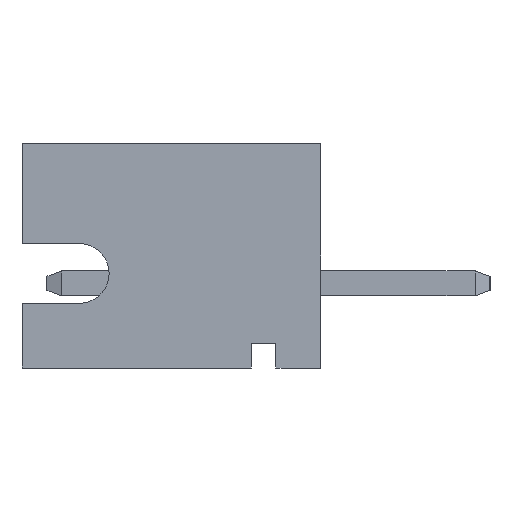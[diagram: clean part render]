
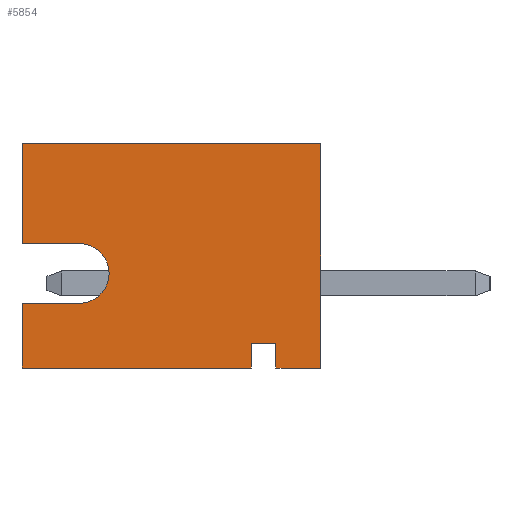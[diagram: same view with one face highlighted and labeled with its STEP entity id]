
A CAD part, left-side view. The second image highlights one B-rep face of the part: STEP entity #5854.
In plain terms, the highlighted planar face has unit normal (-1, 0, 0).
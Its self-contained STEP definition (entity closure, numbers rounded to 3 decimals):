
#412 = CARTESIAN_POINT ( 'NONE',  ( -1.95, 0., 2.8 ) ) ;
#5540 = DIRECTION ( 'NONE',  ( 0., 0., 1. ) ) ;
#5541 = VECTOR ( 'NONE', #5540, 1000. ) ;
#5542 = CARTESIAN_POINT ( 'NONE',  ( -1.95, 6., 0.8 ) ) ;
#5543 = LINE ( 'NONE', #5542, #5541 ) ;
#5544 = CARTESIAN_POINT ( 'NONE',  ( -1.95, 6., 0.8 ) ) ;
#5666 = EDGE_CURVE ( 'NONE', #5668, #5785, #7771, .T. ) ;
#5668 = VERTEX_POINT ( 'NONE', #7833 ) ;
#5682 = VERTEX_POINT ( 'NONE', #7855 ) ;
#5693 = VERTEX_POINT ( 'NONE', #7865 ) ;
#5695 = EDGE_CURVE ( 'NONE', #5693, #5765, #7864, .T. ) ;
#5707 = EDGE_CURVE ( 'NONE', #5717, #5735, #7793, .T. ) ;
#5717 = VERTEX_POINT ( 'NONE', #7998 ) ;
#5735 = VERTEX_POINT ( 'NONE', #7915 ) ;
#5738 = EDGE_CURVE ( 'NONE', #5735, #5693, #8020, .T. ) ;
#5741 = EDGE_CURVE ( 'NONE', #5682, #5743, #7942, .T. ) ;
#5743 = VERTEX_POINT ( 'NONE', #7946 ) ;
#5744 = EDGE_CURVE ( 'NONE', #5743, #6087, #7945, .T. ) ;
#5755 = VERTEX_POINT ( 'NONE', #7917 ) ;
#5757 = EDGE_CURVE ( 'NONE', #5755, #5682, #7992, .T. ) ;
#5765 = VERTEX_POINT ( 'NONE', #7978 ) ;
#5767 = EDGE_CURVE ( 'NONE', #5765, #5755, #7977, .T. ) ;
#5771 = ORIENTED_EDGE ( 'NONE', *, *, #6089, .F. ) ;
#5772 = ORIENTED_EDGE ( 'NONE', *, *, #5744, .F. ) ;
#5773 = ORIENTED_EDGE ( 'NONE', *, *, #5741, .F. ) ;
#5774 = ORIENTED_EDGE ( 'NONE', *, *, #5757, .F. ) ;
#5775 = ORIENTED_EDGE ( 'NONE', *, *, #5767, .F. ) ;
#5776 = ORIENTED_EDGE ( 'NONE', *, *, #5695, .F. ) ;
#5778 = EDGE_CURVE ( 'NONE', #6223, #5668, #7961, .T. ) ;
#5782 = EDGE_CURVE ( 'NONE', #5785, #5717, #7957, .T. ) ;
#5785 = VERTEX_POINT ( 'NONE', #7930 ) ;
#5854 = ADVANCED_FACE ( 'NONE', ( #8093 ), #8119, .T. ) ;
#5855 = EDGE_LOOP ( 'NONE', ( #5856, #5771, #5772, #5773, #5774, #5775, #5776, #5922, #5923, #5924, #5925, #5926 ) ) ;
#5856 = ORIENTED_EDGE ( 'NONE', *, *, #5960, .F. ) ;
#5922 = ORIENTED_EDGE ( 'NONE', *, *, #5738, .F. ) ;
#5923 = ORIENTED_EDGE ( 'NONE', *, *, #5707, .F. ) ;
#5924 = ORIENTED_EDGE ( 'NONE', *, *, #5782, .F. ) ;
#5925 = ORIENTED_EDGE ( 'NONE', *, *, #5666, .F. ) ;
#5926 = ORIENTED_EDGE ( 'NONE', *, *, #5778, .F. ) ;
#5958 = VERTEX_POINT ( 'NONE', #8224 ) ;
#5960 = EDGE_CURVE ( 'NONE', #5958, #6223, #8223, .T. ) ;
#6087 = VERTEX_POINT ( 'NONE', #5544 ) ;
#6089 = EDGE_CURVE ( 'NONE', #6087, #5958, #5543, .T. ) ;
#6223 = VERTEX_POINT ( 'NONE', #412 ) ;
#7768 = DIRECTION ( 'NONE',  ( 0., 1., 0. ) ) ;
#7769 = VECTOR ( 'NONE', #7768, 1000. ) ;
#7770 = CARTESIAN_POINT ( 'NONE',  ( -1.95, 0., -1.7 ) ) ;
#7771 = LINE ( 'NONE', #7770, #7769 ) ;
#7793 = LINE ( 'NONE', #7821, #7820 ) ;
#7819 = DIRECTION ( 'NONE',  ( 0., 1., 0. ) ) ;
#7820 = VECTOR ( 'NONE', #7819, 1000. ) ;
#7821 = CARTESIAN_POINT ( 'NONE',  ( -1.95, 0.9, -1.2 ) ) ;
#7833 = CARTESIAN_POINT ( 'NONE',  ( -1.95, 0., -1.7 ) ) ;
#7855 = CARTESIAN_POINT ( 'NONE',  ( -1.95, 4.85, -0.4 ) ) ;
#7861 = DIRECTION ( 'NONE',  ( 0., 1., 0. ) ) ;
#7862 = VECTOR ( 'NONE', #7861, 1000. ) ;
#7863 = CARTESIAN_POINT ( 'NONE',  ( -1.95, 1.4, -1.7 ) ) ;
#7864 = LINE ( 'NONE', #7863, #7862 ) ;
#7865 = CARTESIAN_POINT ( 'NONE',  ( -1.95, 1.4, -1.7 ) ) ;
#7911 = DIRECTION ( 'NONE',  ( 0., 0., -1. ) ) ;
#7912 = VECTOR ( 'NONE', #7911, 1000. ) ;
#7913 = CARTESIAN_POINT ( 'NONE',  ( -1.95, 1.4, -1.7 ) ) ;
#7915 = CARTESIAN_POINT ( 'NONE',  ( -1.95, 1.4, -1.2 ) ) ;
#7917 = CARTESIAN_POINT ( 'NONE',  ( -1.95, 6., -0.4 ) ) ;
#7930 = CARTESIAN_POINT ( 'NONE',  ( -1.95, 0.9, -1.7 ) ) ;
#7942 = CIRCLE ( 'NONE', #7950, 0.6 ) ;
#7945 = LINE ( 'NONE', #8007, #8006 ) ;
#7946 = CARTESIAN_POINT ( 'NONE',  ( -1.95, 4.85, 0.8 ) ) ;
#7947 = DIRECTION ( 'NONE',  ( 0., 0., 1. ) ) ;
#7948 = DIRECTION ( 'NONE',  ( -1., 0., 0. ) ) ;
#7949 = CARTESIAN_POINT ( 'NONE',  ( -1.95, 4.85, 0.2 ) ) ;
#7950 = AXIS2_PLACEMENT_3D ( 'NONE', #7949, #7948, #7947 ) ;
#7954 = DIRECTION ( 'NONE',  ( 0., 0., 1. ) ) ;
#7955 = VECTOR ( 'NONE', #7954, 1000. ) ;
#7956 = CARTESIAN_POINT ( 'NONE',  ( -1.95, 0.9, -1.7 ) ) ;
#7957 = LINE ( 'NONE', #7956, #7955 ) ;
#7958 = DIRECTION ( 'NONE',  ( 0., 0., -1. ) ) ;
#7959 = VECTOR ( 'NONE', #7958, 1000. ) ;
#7960 = CARTESIAN_POINT ( 'NONE',  ( -1.95, 0., 2.8 ) ) ;
#7961 = LINE ( 'NONE', #7960, #7959 ) ;
#7974 = DIRECTION ( 'NONE',  ( 0., 0., 1. ) ) ;
#7975 = VECTOR ( 'NONE', #7974, 1000. ) ;
#7976 = CARTESIAN_POINT ( 'NONE',  ( -1.95, 6., -1.7 ) ) ;
#7977 = LINE ( 'NONE', #7976, #7975 ) ;
#7978 = CARTESIAN_POINT ( 'NONE',  ( -1.95, 6., -1.7 ) ) ;
#7989 = DIRECTION ( 'NONE',  ( 0., -1., 0. ) ) ;
#7990 = VECTOR ( 'NONE', #7989, 1000. ) ;
#7991 = CARTESIAN_POINT ( 'NONE',  ( -1.95, 6., -0.4 ) ) ;
#7992 = LINE ( 'NONE', #7991, #7990 ) ;
#7998 = CARTESIAN_POINT ( 'NONE',  ( -1.95, 0.9, -1.2 ) ) ;
#8005 = DIRECTION ( 'NONE',  ( 0., 1., 0. ) ) ;
#8006 = VECTOR ( 'NONE', #8005, 1000. ) ;
#8007 = CARTESIAN_POINT ( 'NONE',  ( -1.95, 4.85, 0.8 ) ) ;
#8020 = LINE ( 'NONE', #7913, #7912 ) ;
#8093 = FACE_OUTER_BOUND ( 'NONE', #5855, .T. ) ;
#8115 = DIRECTION ( 'NONE',  ( 0., 0., 1. ) ) ;
#8116 = DIRECTION ( 'NONE',  ( -1., 0., 0. ) ) ;
#8117 = CARTESIAN_POINT ( 'NONE',  ( -1.95, 4.85, 0.2 ) ) ;
#8118 = AXIS2_PLACEMENT_3D ( 'NONE', #8117, #8116, #8115 ) ;
#8119 = PLANE ( 'NONE',  #8118 ) ;
#8220 = DIRECTION ( 'NONE',  ( 0., -1., 0. ) ) ;
#8221 = VECTOR ( 'NONE', #8220, 1000. ) ;
#8222 = CARTESIAN_POINT ( 'NONE',  ( -1.95, 6., 2.8 ) ) ;
#8223 = LINE ( 'NONE', #8222, #8221 ) ;
#8224 = CARTESIAN_POINT ( 'NONE',  ( -1.95, 6., 2.8 ) ) ;
